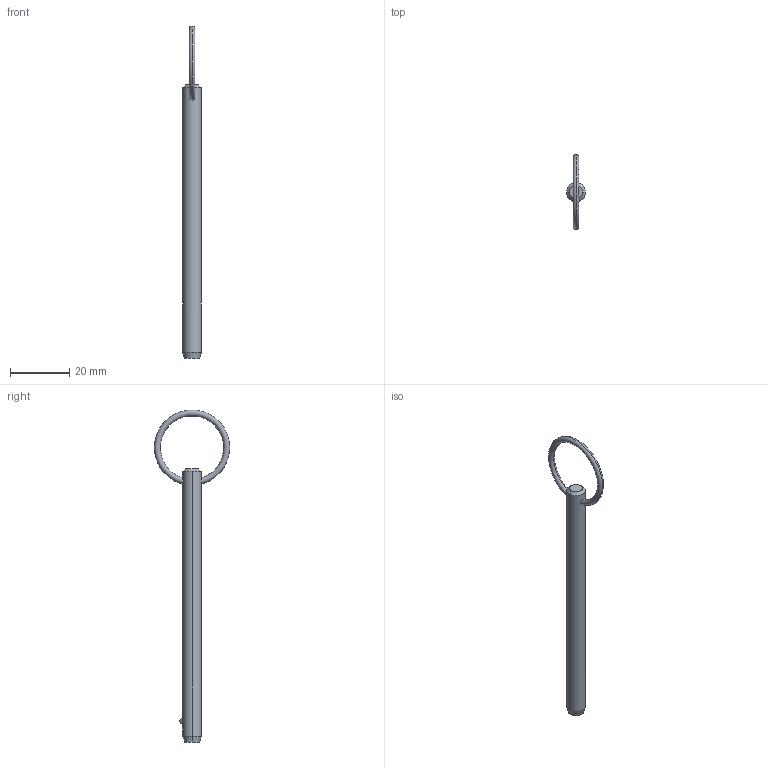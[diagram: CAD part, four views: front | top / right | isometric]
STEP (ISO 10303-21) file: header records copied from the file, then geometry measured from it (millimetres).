
FILE_DESCRIPTION (( 'STEP AP203' ), '1' );
FILE_NAME ('P1250.025-310.step', '2019-07-29T19:44:42', ( '' ), ( '' ), 'SwSTEP 2.0', 'SolidWorks 2017', '' );
FILE_SCHEMA (( 'CONFIG_CONTROL_DESIGN' ));
Length unit declared in the file: millimetre
Products named in the file (1): P1250.025-310
Bounding box: 6.35 x 25.38 x 112.12 mm (x, y, z)
Volume: 3116.7 mm3; surface area: 2298.7 mm2
Topology: 1 solids, 1 shells, 12 faces, 28 edges, 17 vertices
Faces by surface type: cone 4, torus 2, sphere 2, cylinder 2, plane 2
Entity records: 481 total; most frequent: CARTESIAN_POINT 148, DIRECTION 56, ORIENTED_EDGE 48, AXIS2_PLACEMENT_3D 25, EDGE_CURVE 24, VERTEX_POINT 15, EDGE_LOOP 15, CIRCLE 12
